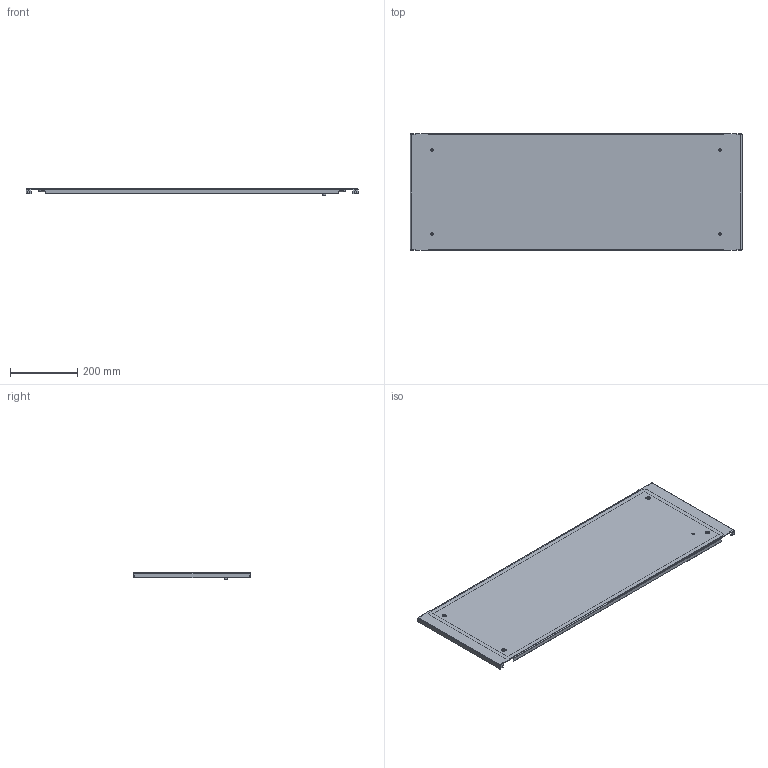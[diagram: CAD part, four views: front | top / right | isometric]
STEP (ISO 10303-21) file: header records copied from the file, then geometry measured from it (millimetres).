
FILE_DESCRIPTION(('STEP AP203'), '1');
FILE_NAME('Ïàíåëü ëèöåâàÿ ãëóõàÿ 350õ1000 ìì OptiBox M 419487 ÊÝÀÇ', '', ('UNSPECIFIED'), ('UNSPECIFIED'), 'C3D Converter', 'C3D Toolkit', '');
FILE_SCHEMA(('CONFIG_CONTROL_DESIGN'));
Length unit declared in the file: millimetre
Bounding box: 986.4 x 347 x 18.9 mm (x, y, z)
Volume: 692560 mm3; surface area: 827717.5 mm2
Topology: 3 solids, 3 shells, 168 faces, 385 edges, 230 vertices
Faces by surface type: plane 109, cylinder 51, bspline 8
Full cylindrical faces by diameter (mm): 0.75 x1, 1 x1, 5 x2, 7.3 x4, 8 x1, 9.3 x1, 13 x1, 13.5 x4
Entity records: 5740 total; most frequent: CARTESIAN_POINT 2005, ORIENTED_EDGE 740, DIRECTION 726, EDGE_CURVE 370, LINE 264, VECTOR 264, AXIS2_PLACEMENT_3D 231, VERTEX_POINT 230
